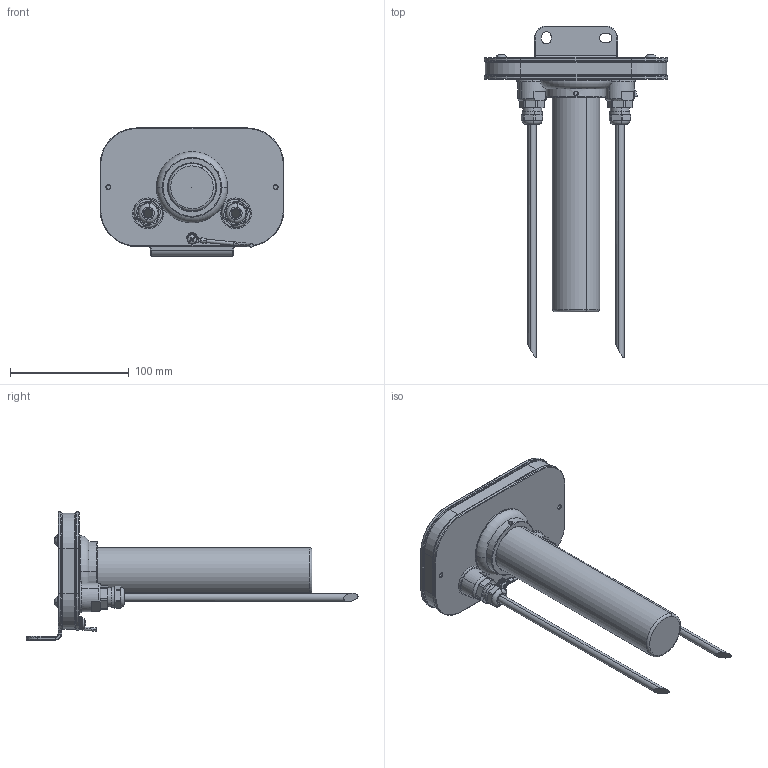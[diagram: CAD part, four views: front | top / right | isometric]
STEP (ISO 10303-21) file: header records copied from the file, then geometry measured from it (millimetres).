
FILE_DESCRIPTION (( 'STEP AP214' ), '1' );
FILE_NAME ('TERRA-L_B.STEP', '2020-09-30T13:12:42', ( '' ), ( '' ), 'SwSTEP 2.0', 'SolidWorks 2016', '' );
FILE_SCHEMA (( 'AUTOMOTIVE_DESIGN' ));
Length unit declared in the file: millimetre
Products named in the file (1): TERRA-L_B
Bounding box: 155 x 279.92 x 108 mm (x, y, z)
Volume: 302283.1 mm3; surface area: 134767.6 mm2
Topology: 2 solids, 21 shells, 812 faces, 1908 edges, 1170 vertices
Faces by surface type: plane 325, cylinder 294, cone 123, torus 46, bspline 14, sphere 10
Entity records: 33803 total; most frequent: CARTESIAN_POINT 5816, DIRECTION 4294, ORIENTED_EDGE 3736, EDGE_CURVE 1868, AXIS2_PLACEMENT_3D 1704, VERTEX_POINT 1170, EDGE_LOOP 916, CIRCLE 905
